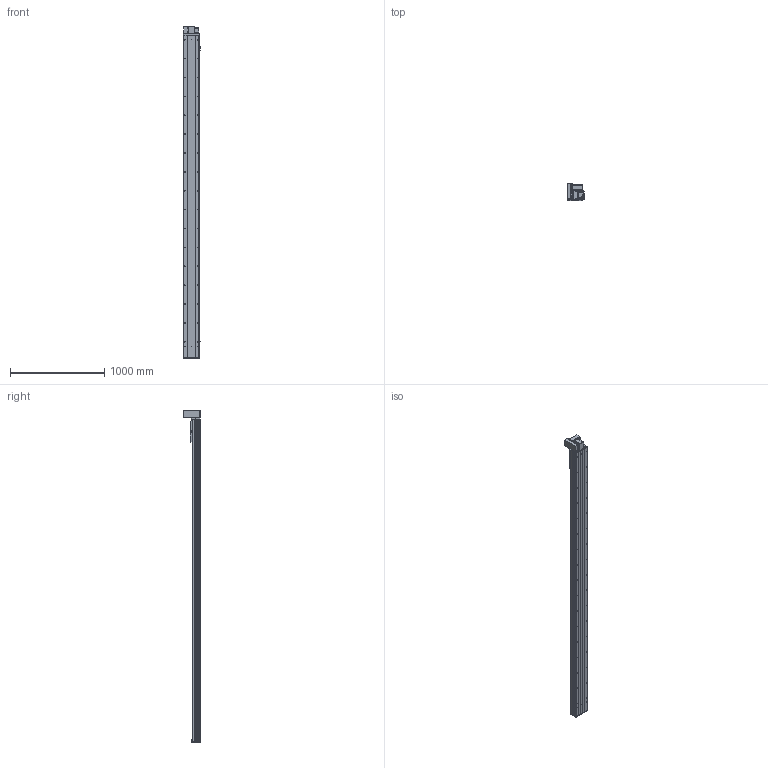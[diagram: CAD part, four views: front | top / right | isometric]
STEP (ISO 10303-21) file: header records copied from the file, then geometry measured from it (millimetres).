
FILE_DESCRIPTION (( 'STEP AP203' ), '1' );
FILE_NAME ('Y170CB-D105-S3100-UL-P400W.STEP', '2020-02-20T03:22:34', ( '微软用户' ), ( '微软中国' ), 'SwSTEP 2.0', 'SolidWorks 2017', '' );
FILE_SCHEMA (( 'CONFIG_CONTROL_DESIGN' ));
Length unit declared in the file: millimetre
Products named in the file (18): 70CB-詩湍--; san松下电机400不带刹车----; Y100-135俋离換覜ん--; 70CB-掛极-; Y170CB-陔俋离換覜結え---; --70CB --喘謫眊楊擘啣-; 70B喘謫眊----; 70CB-耜裔啣-; Y1埴倛裔; 70C--詩湍揤踡え-; 17B-耜蚾蟀諉啣----; 70CB--耜裔; 00B-俋欶BM--163; 70C-雄赽釱-奻-; B-源倛裔啣; Y170CB-D105-S3100-UL-P400W; 0C--雄赽釱俋欶-170; 0B-萇儂楊擘啣
Assembly tree (21 placements, depth 2):
  Y170CB-D105-S3100-UL-P400W
    B-源倛裔啣
    0B-萇儂楊擘啣
    san松下电机400不带刹车----
    70CB-掛极-
    --70CB --喘謫眊楊擘啣-
    70CB-耜裔啣-  x2
    70C--詩湍揤踡え-  x2
    70CB--耜裔
    70C-雄赽釱-奻-
    0C--雄赽釱俋欶-170
    70CB-詩湍--
    Y100-135俋离換覜ん--  x3
    Y170CB-陔俋离換覜結え---
    70B喘謫眊----
    Y1埴倛裔
    17B-耜蚾蟀諉啣----
    00B-俋欶BM--163
Bounding box: 183.5 x 174 x 3516 mm (x, y, z)
Volume: 14807324.4 mm3; surface area: 5354610.1 mm2
Topology: 21 solids, 21 shells, 1095 faces, 2957 edges, 1962 vertices
Faces by surface type: cylinder 609, plane 462, cone 24
Entity records: 35248 total; most frequent: CARTESIAN_POINT 6516, DIRECTION 5738, ORIENTED_EDGE 5396, EDGE_CURVE 2698, AXIS2_PLACEMENT_3D 2128, VERTEX_POINT 1792, LINE 1482, VECTOR 1482
